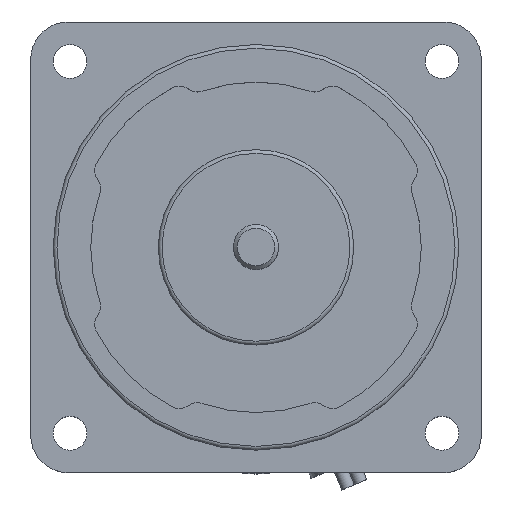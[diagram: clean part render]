
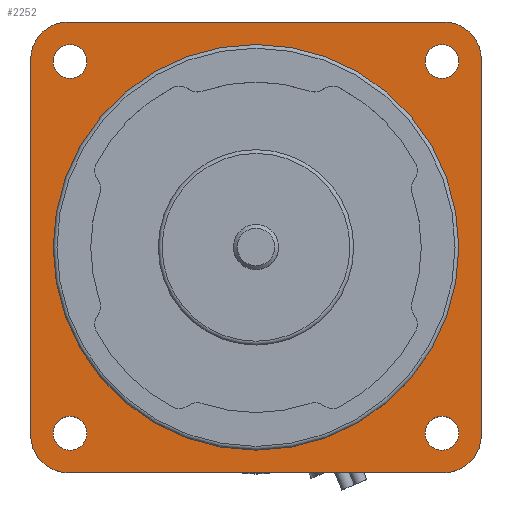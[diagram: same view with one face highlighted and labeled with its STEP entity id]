
A CAD part, top view. The second image highlights one B-rep face of the part: STEP entity #2252.
In plain terms, the highlighted planar face has unit normal (0, 0, 1).
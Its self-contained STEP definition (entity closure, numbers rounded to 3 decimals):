
#1098=CARTESIAN_POINT('',(-22.499,24.749,123.0));
#1099=VERTEX_POINT('',#1098);
#1100=CARTESIAN_POINT('',(-24.749,24.749,123.0));
#1101=DIRECTION('',(0.0,0.0,-1.0));
#1102=DIRECTION('',(-1.0,0.0,0.0));
#1103=AXIS2_PLACEMENT_3D('',#1100,#1101,#1102);
#1104=CIRCLE('',#1103,2.25);
#1105=EDGE_CURVE('',#1099,#1099,#1104,.T.);
#1118=CARTESIAN_POINT('',(-22.499,-24.749,123.0));
#1119=VERTEX_POINT('',#1118);
#1120=CARTESIAN_POINT('',(-24.749,-24.749,123.0));
#1121=DIRECTION('',(0.0,0.0,-1.0));
#1122=DIRECTION('',(-1.0,0.0,0.0));
#1123=AXIS2_PLACEMENT_3D('',#1120,#1121,#1122);
#1124=CIRCLE('',#1123,2.25);
#1125=EDGE_CURVE('',#1119,#1119,#1124,.T.);
#1138=CARTESIAN_POINT('',(26.999,-24.749,123.0));
#1139=VERTEX_POINT('',#1138);
#1140=CARTESIAN_POINT('',(24.749,-24.749,123.0));
#1141=DIRECTION('',(0.0,0.0,-1.0));
#1142=DIRECTION('',(-1.0,0.0,0.0));
#1143=AXIS2_PLACEMENT_3D('',#1140,#1141,#1142);
#1144=CIRCLE('',#1143,2.25);
#1145=EDGE_CURVE('',#1139,#1139,#1144,.T.);
#1158=CARTESIAN_POINT('',(26.999,24.749,123.0));
#1159=VERTEX_POINT('',#1158);
#1160=CARTESIAN_POINT('',(24.749,24.749,123.0));
#1161=DIRECTION('',(0.0,0.0,-1.0));
#1162=DIRECTION('',(-1.0,0.0,0.0));
#1163=AXIS2_PLACEMENT_3D('',#1160,#1161,#1162);
#1164=CIRCLE('',#1163,2.25);
#1165=EDGE_CURVE('',#1159,#1159,#1164,.T.);
#1320=CARTESIAN_POINT('',(27.0,0.,123.0));
#1321=VERTEX_POINT('',#1320);
#1322=CARTESIAN_POINT('',(0.0,0.0,123.0));
#1323=DIRECTION('',(0.0,0.0,-1.0));
#1324=DIRECTION('',(-1.0,0.0,0.0));
#1325=AXIS2_PLACEMENT_3D('',#1322,#1323,#1324);
#1326=CIRCLE('',#1325,27.0);
#1327=EDGE_CURVE('',#1321,#1321,#1326,.T.);
#2162=CARTESIAN_POINT('',(0.0,0.0,123.0));
#2163=DIRECTION('',(0.0,0.0,-1.0));
#2164=DIRECTION('',(-1.0,0.0,0.0));
#2165=AXIS2_PLACEMENT_3D('',#2162,#2163,#2164);
#2166=PLANE('',#2165);
#2167=CARTESIAN_POINT('',(25.0,30.0,123.0));
#2168=VERTEX_POINT('',#2167);
#2169=CARTESIAN_POINT('',(-25.0,30.0,123.0));
#2170=VERTEX_POINT('',#2169);
#2171=CARTESIAN_POINT('',(25.0,30.0,123.0));
#2172=DIRECTION('',(-1.0,0.0,0.0));
#2173=VECTOR('',#2172,50.0);
#2174=LINE('',#2171,#2173);
#2175=EDGE_CURVE('',#2168,#2170,#2174,.T.);
#2176=ORIENTED_EDGE('',*,*,#2175,.T.);
#2177=CARTESIAN_POINT('',(-30.0,25.0,123.0));
#2178=VERTEX_POINT('',#2177);
#2179=CARTESIAN_POINT('',(-25.,25.,123.0));
#2180=DIRECTION('',(0.0,0.0,1.0));
#2181=DIRECTION('',(0.0,1.0,0.0));
#2182=AXIS2_PLACEMENT_3D('',#2179,#2180,#2181);
#2183=CIRCLE('',#2182,5.);
#2184=EDGE_CURVE('',#2170,#2178,#2183,.T.);
#2185=ORIENTED_EDGE('',*,*,#2184,.T.);
#2186=CARTESIAN_POINT('',(-30.0,-25.0,123.0));
#2187=VERTEX_POINT('',#2186);
#2188=CARTESIAN_POINT('',(-30.0,25.0,123.0));
#2189=DIRECTION('',(0.0,-1.0,0.0));
#2190=VECTOR('',#2189,50.0);
#2191=LINE('',#2188,#2190);
#2192=EDGE_CURVE('',#2178,#2187,#2191,.T.);
#2193=ORIENTED_EDGE('',*,*,#2192,.T.);
#2194=CARTESIAN_POINT('',(-25.0,-30.0,123.0));
#2195=VERTEX_POINT('',#2194);
#2196=CARTESIAN_POINT('',(-25.,-25.,123.0));
#2197=DIRECTION('',(0.0,0.0,1.0));
#2198=DIRECTION('',(-1.0,0.0,0.0));
#2199=AXIS2_PLACEMENT_3D('',#2196,#2197,#2198);
#2200=CIRCLE('',#2199,5.);
#2201=EDGE_CURVE('',#2187,#2195,#2200,.T.);
#2202=ORIENTED_EDGE('',*,*,#2201,.T.);
#2203=CARTESIAN_POINT('',(25.0,-30.0,123.0));
#2204=VERTEX_POINT('',#2203);
#2205=CARTESIAN_POINT('',(-25.0,-30.0,123.0));
#2206=DIRECTION('',(1.0,0.0,0.0));
#2207=VECTOR('',#2206,50.0);
#2208=LINE('',#2205,#2207);
#2209=EDGE_CURVE('',#2195,#2204,#2208,.T.);
#2210=ORIENTED_EDGE('',*,*,#2209,.T.);
#2211=CARTESIAN_POINT('',(30.0,-25.0,123.0));
#2212=VERTEX_POINT('',#2211);
#2213=CARTESIAN_POINT('',(25.,-25.,123.0));
#2214=DIRECTION('',(0.0,0.0,1.0));
#2215=DIRECTION('',(0.0,-1.0,0.0));
#2216=AXIS2_PLACEMENT_3D('',#2213,#2214,#2215);
#2217=CIRCLE('',#2216,5.);
#2218=EDGE_CURVE('',#2204,#2212,#2217,.T.);
#2219=ORIENTED_EDGE('',*,*,#2218,.T.);
#2220=CARTESIAN_POINT('',(30.0,25.0,123.0));
#2221=VERTEX_POINT('',#2220);
#2222=CARTESIAN_POINT('',(30.0,-25.0,123.0));
#2223=DIRECTION('',(0.0,1.0,0.0));
#2224=VECTOR('',#2223,50.0);
#2225=LINE('',#2222,#2224);
#2226=EDGE_CURVE('',#2212,#2221,#2225,.T.);
#2227=ORIENTED_EDGE('',*,*,#2226,.T.);
#2228=CARTESIAN_POINT('',(25.,25.,123.0));
#2229=DIRECTION('',(0.0,0.0,1.0));
#2230=DIRECTION('',(1.0,0.0,0.0));
#2231=AXIS2_PLACEMENT_3D('',#2228,#2229,#2230);
#2232=CIRCLE('',#2231,5.);
#2233=EDGE_CURVE('',#2221,#2168,#2232,.T.);
#2234=ORIENTED_EDGE('',*,*,#2233,.T.);
#2235=EDGE_LOOP('',(#2176,#2185,#2193,#2202,#2210,#2219,#2227,#2234));
#2236=FACE_OUTER_BOUND('',#2235,.T.);
#2237=ORIENTED_EDGE('',*,*,#1105,.T.);
#2238=EDGE_LOOP('',(#2237));
#2239=FACE_BOUND('',#2238,.T.);
#2240=ORIENTED_EDGE('',*,*,#1125,.T.);
#2241=EDGE_LOOP('',(#2240));
#2242=FACE_BOUND('',#2241,.T.);
#2243=ORIENTED_EDGE('',*,*,#1145,.T.);
#2244=EDGE_LOOP('',(#2243));
#2245=FACE_BOUND('',#2244,.T.);
#2246=ORIENTED_EDGE('',*,*,#1165,.T.);
#2247=EDGE_LOOP('',(#2246));
#2248=FACE_BOUND('',#2247,.T.);
#2249=ORIENTED_EDGE('',*,*,#1327,.T.);
#2250=EDGE_LOOP('',(#2249));
#2251=FACE_BOUND('',#2250,.T.);
#2252=ADVANCED_FACE('',(#2236,#2239,#2242,#2245,#2248,#2251),#2166,.F.);
